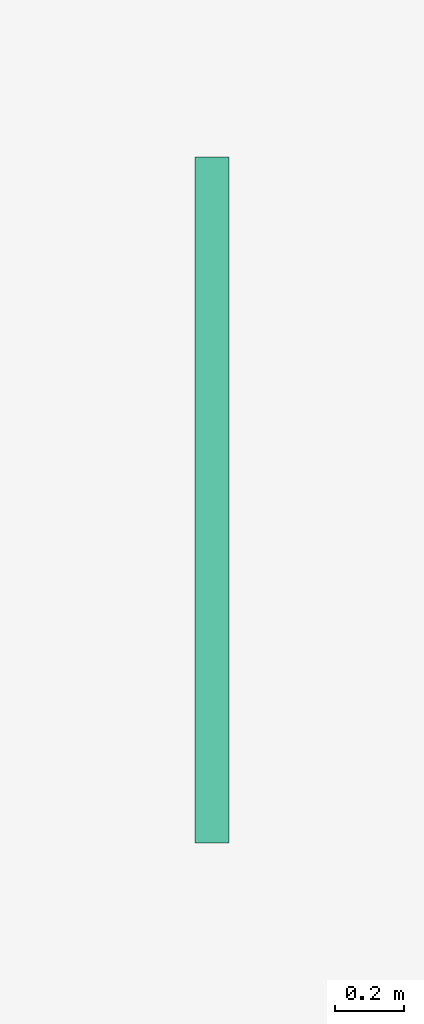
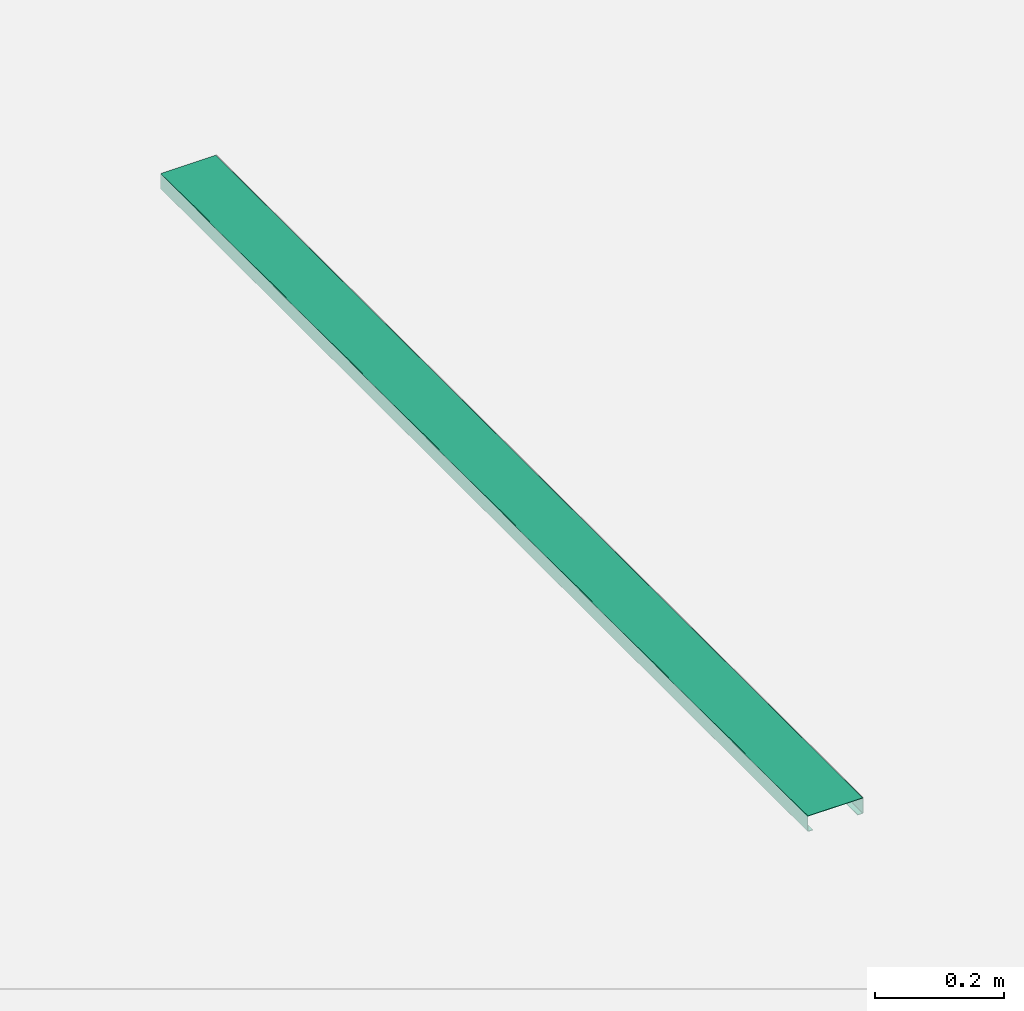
# One storey, part 2 of 2: 1 flow terminal.
"""IFC2X3 building model written with IfcOpenShell, lengths in millimetres."""

from ifc_helpers import new_model, entity, si_unit, converted_unit, derived_unit, direction, frame, frame_2d, origin, place, context, subcontext, project, spatial, polyline, circle_curve, parameter, trimmed, segment, composite_curve, outline, extrude, source, transform, mapped, material, element, save


model = new_model("IFC2X3")

# Units and contexts
model_context = context("Model", 3, precision=1e-05, world=origin(), true_north=direction((2.0, 6.12303176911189e-17, 1.0)))
context_of_model = context(None, 3, precision=1e-05, world=origin(), true_north=direction((2.0, 6.12303176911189e-17, 1.0)))
body_context = subcontext(model_context, "Body", "Model", "MODEL_VIEW")
ifc_project = project(units=[si_unit("LENGTHUNIT", "METRE", prefix="MILLI"), si_unit("AREAUNIT", "SQUARE_METRE"), si_unit("VOLUMEUNIT", "CUBIC_METRE"), converted_unit("PLANEANGLEUNIT", "DEGREE", entity("IfcRatioMeasure", 0.0174532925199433), si_unit("PLANEANGLEUNIT", "RADIAN"), dimensions=[0, 0, 0, 0, 0, 0, 0]), si_unit("MASSUNIT", "GRAM", prefix="KILO"), si_unit("TIMEUNIT", "SECOND"), si_unit("THERMODYNAMICTEMPERATUREUNIT", "KELVIN"), derived_unit("THERMALTRANSMITTANCEUNIT", [(si_unit("MASSUNIT", "GRAM", prefix="KILO"), 1), (si_unit("THERMODYNAMICTEMPERATUREUNIT", "KELVIN"), -1), (si_unit("TIMEUNIT", "SECOND"), -3)]), derived_unit("VOLUMETRICFLOWRATEUNIT", [(si_unit("LENGTHUNIT", "METRE"), 3), (si_unit("TIMEUNIT", "SECOND"), -1)]), si_unit("POWERUNIT", "WATT")], contexts=[model_context, context_of_model])

# Site, building, storey
site_placement = place(None, origin())
site = spatial("IfcSite", under=ifc_project, at=site_placement, Name="Default", CompositionType="ELEMENT")
building_placement = place(site_placement, origin())
building = spatial("IfcBuilding", under=site, at=building_placement, CompositionType="ELEMENT")
storey_placement = place(building_placement, origin())
storey = spatial("IfcBuildingStorey", under=building, at=storey_placement, Name="Level 1", CompositionType="ELEMENT", Elevation=0.0)

# Flow terminal
ifc_material = material(Name="Stainless Steel Grade 304")
shared_shape = source(origin(), body_context, "Body", "SweptSolid", [
    extrude(outline(composite_curve([segment(polyline([(-49.0, -10.9047619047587), (-49.0, 15.0952380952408)]), True, "CONTINUOUS"), segment(trimmed(circle_curve(frame_2d((-48.0, 15.0952380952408), x_axis=(1.0, 0.0)), 1.0), [parameter(90.0000000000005)], [parameter(180.0)], True, "PARAMETER"), False, "CONTINUOUS"), segment(polyline([(-48.0, 16.0952380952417), (0.0, 16.0952380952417)]), True, "CONTINUOUS"), segment(polyline([(0.0, 16.0952380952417), (48.0, 16.0952380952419)]), True, "CONTINUOUS"), segment(trimmed(circle_curve(frame_2d((48.0, 15.0952380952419), x_axis=(1.0, 0.0)), 1.00000000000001), [parameter(3.56222124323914e-13)], [parameter(90.0000000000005)], True, "PARAMETER"), False, "CONTINUOUS"), segment(polyline([(49.0, 15.0952380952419), (49.0, -10.9047619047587)]), True, "CONTINUOUS"), segment(trimmed(circle_curve(frame_2d((48.0, -10.9047619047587), x_axis=(1.0, 0.0)), 1.00000000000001), [parameter(270.0)], [parameter(5.08888749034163e-13)], True, "PARAMETER"), False, "CONTINUOUS"), segment(polyline([(48.0, -11.9047619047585), (40.0, -11.9047619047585)]), True, "CONTINUOUS"), segment(polyline([(40.0, -11.9047619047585), (40.0, -12.9047619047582)]), True, "CONTINUOUS"), segment(polyline([(40.0, -12.9047619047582), (48.0, -12.9047619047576)]), True, "CONTINUOUS"), segment(trimmed(circle_curve(frame_2d((48.0, -10.9047619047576), x_axis=(1.0, 0.0)), 2.0), [parameter(270.0)], [parameter(0.0)], True, "PARAMETER"), True, "CONTINUOUS"), segment(polyline([(50.0, -10.9047619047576), (50.0, 15.0952380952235)]), True, "CONTINUOUS"), segment(trimmed(circle_curve(frame_2d((48.0, 15.0952380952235), x_axis=(1.0, 0.0)), 2.0), [parameter(0.0)], [parameter(89.9999999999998)], True, "PARAMETER"), True, "CONTINUOUS"), segment(polyline([(48.0, 17.0952380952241), (-48.0, 17.0952380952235)]), True, "CONTINUOUS"), segment(trimmed(circle_curve(frame_2d((-48.0, 15.0952380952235), x_axis=(1.0, 0.0)), 2.0), [parameter(90.0000000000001)], [parameter(180.0)], True, "PARAMETER"), True, "CONTINUOUS"), segment(polyline([(-50.0, 15.0952380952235), (-50.0, -10.9047619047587)]), True, "CONTINUOUS"), segment(trimmed(circle_curve(frame_2d((-48.0, -10.9047619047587), x_axis=(1.0, 0.0)), 2.0), [parameter(180.0)], [parameter(270.0)], True, "PARAMETER"), True, "CONTINUOUS"), segment(polyline([(-48.0, -12.9047619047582), (-40.0, -12.9047619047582)]), True, "CONTINUOUS"), segment(polyline([(-40.0, -12.9047619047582), (-40.0, -11.9047619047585)]), True, "CONTINUOUS"), segment(polyline([(-40.0, -11.9047619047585), (-48.0, -11.9047619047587)]), True, "CONTINUOUS"), segment(trimmed(circle_curve(frame_2d((-48.0, -10.9047619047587), x_axis=(1.0, 0.0)), 1.0), [parameter(180.0)], [parameter(270.0)], True, "PARAMETER"), False, "CONTINUOUS")], self_intersect=False)), frame((0.0, 0.0, -17.0952380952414), z_axis=(0.0, -1.0, 0.0), x_axis=(1.0, 0.0, 0.0)), (0.0, 0.0, -1.0), 2000.0),
])
flow_terminal_placement = place(storey_placement, frame((-20.600374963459, -972.438385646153, 0.0)))
element("IfcFlowTerminal", 1, at=flow_terminal_placement, inside=storey, material=ifc_material, Name="ACO Freedeck Access Frame & Drain Duct (Accessories part 1) V1.27 - SS:00307 - Drainage Duct - 2000mm LG", ObjectType="00307 - Drainage Duct - 2000mm LG", context=body_context, shape_type="MappedRepresentation", body=[
    mapped(shared_shape, transform((0.0, 0.0, 0.0), scale=1.0)),
])

save(model, "model.ifc")
